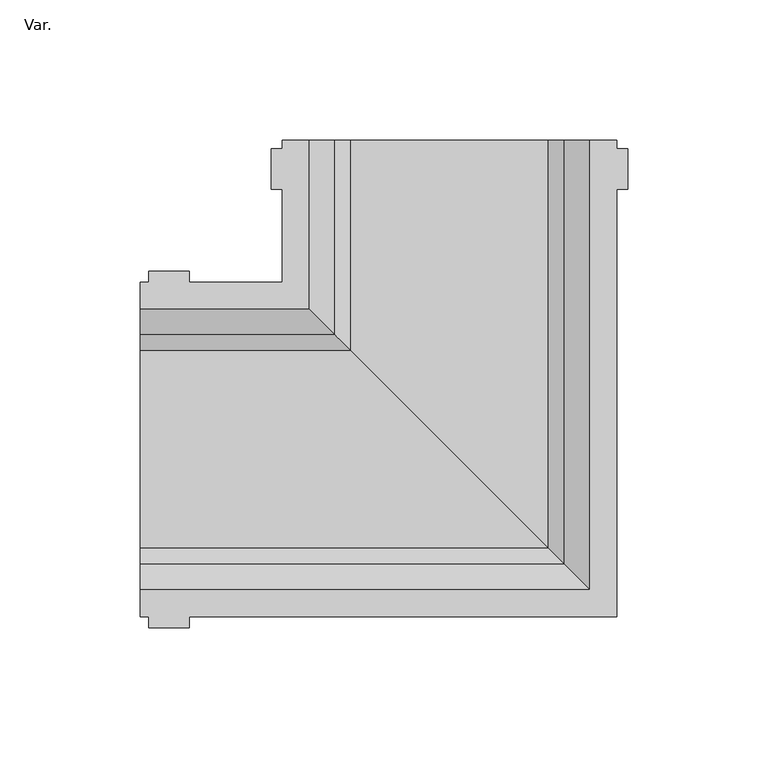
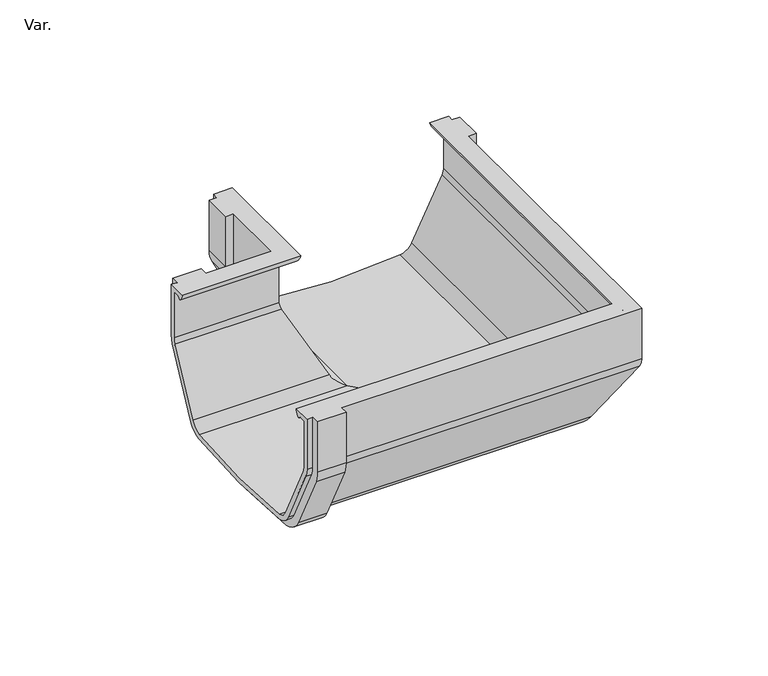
"""IFC4 building model written with IfcOpenShell, lengths in millimetres: pipe fitting geometry, PavcoWavin_UnionesDeTuberia_ZCanal Raingo_Unión Esquina_NoUsarUnion : Var.."""

from ifc_helpers import new_model, si_unit, frame, origin, place, context, project, spatial, polyline, circle_curve, ellipse_curve, source, transform, mapped, element, save
from ifc_brep_helpers import plane_surface, cylinder_surface, revolved_surface, advanced_brep


def var_66918e25(model_context):
    return source(origin(), model_context, "Body", "AdvancedBrep", [
        advanced_brep(
        [(3.0, -59.65, 74.30297), (3.0, -59.65, 47.349975), (3.0, -58.7346069, 43.0345014), (3.0, -43.1317978, 11.7683303), (3.0, -35.5756149, 6.0662115), (3.0, 35.5756149, 6.0662115), (3.0, 43.1317978, 11.7683303), (3.0, 58.7346069, 43.0345014), (3.0, 59.65, 47.349975), (3.0, 59.65, 74.30297), (3.0, 63.65, 74.30297), (3.0, 63.65, 47.349975), (3.0, 62.3505519, 41.3222652), (3.0, 46.7108918, 9.9822491), (3.0, 36.1652462, 2.1078834), (3.0, -36.1652462, 2.1078834), (3.0, -46.7108918, 9.9822491), (3.0, -62.3505519, 41.3222652), (3.0, -63.65, 47.349975), (3.0, -63.65, 74.30297), (0.0, 59.65, 74.30297), (0.0, 50.15, 74.30297), (60.2, 50.15, 74.30297), (60.2, 110.35, 74.30297), (50.7, 110.35, 74.30297), (50.7, 107.35, 74.30297), (46.7, 107.35, 74.30297), (46.7, 92.85, 74.30297), (50.7, 92.85, 74.30297), (50.7, 59.65, 74.30297), (17.5, 59.65, 74.30297), (17.5, 63.65, 74.30297), (17.5, 63.65, 47.349975), (17.5, 62.3505519, 41.3222652), (17.5, 46.7108918, 9.9822491), (17.5, 36.1652462, 2.1078834), (17.5, -36.1652462, 2.1078834), (17.5, -46.7108918, 9.9822491), (17.5, -62.3505519, 41.3222652), (17.5, -63.65, 47.349975), (17.5, -63.65, 74.30297), (17.5, -59.65, 74.30297), (170.0, -59.65, 74.30297), (170.0, 92.85, 74.30297), (174.0, 92.85, 74.30297), (174.0, 107.35, 74.30297), (170.0, 107.35, 74.30297), (170.0, 110.35, 74.30297), (160.5, 110.35, 74.30297), (160.5, -50.15, 74.30297), (0.0, -50.15, 74.30297), (0.0, -59.65, 74.30297), (17.5, 59.65, 47.349975), (17.5, 58.7346069, 43.0345014), (17.5, 43.1317978, 11.7683303), (17.5, 35.5756149, 6.0662115), (17.5, -35.5756149, 6.0662115), (17.5, -43.1317978, 11.7683303), (17.5, -58.7346069, 43.0345014), (17.5, -59.65, 47.349975), (0.0, 59.65, 47.349975), (0.0, 58.7346069, 43.0345014), (0.0, 43.1317978, 11.7683303), (0.0, 35.5756149, 6.0662115), (0.0, -35.5756149, 6.0662115), (0.0, -43.1317978, 11.7683303), (0.0, -58.7346069, 43.0345014), (0.0, -59.65, 47.349975), (0.0, -52.2524004, 70.5325786), (0.0, -53.766394, 71.80297), (0.0, -57.15, 71.80297), (0.0, -57.15, 47.349975), (0.0, -56.4709703, 44.0972929), (0.0, -40.8948641, 12.8846311), (0.0, -35.1949678, 8.5387835), (0.0, 35.1949678, 8.5387835), (0.0, 40.8948641, 12.8846311), (0.0, 56.4709703, 44.0972929), (0.0, 57.15, 47.349975), (0.0, 57.15, 71.80297), (0.0, 53.766394, 71.80297), (0.0, 52.2524004, 70.5325786), (50.7, 59.65, 47.349975), (51.6153931, 58.7346069, 43.0345014), (67.2182022, 43.1317978, 11.7683303), (74.7743851, 35.5756149, 6.0662115), (110.35, 0.0, 4.0), (145.9256149, -35.5756149, 6.0662115), (153.4817978, -43.1317978, 11.7683303), (169.0846069, -58.7346069, 43.0345014), (170.0, -59.65, 47.349975), (162.6024004, -52.2524004, 70.5325786), (164.116394, -53.766394, 71.80297), (164.116394, 110.35, 71.80297), (167.5, 110.35, 71.80297), (167.5, -57.15, 71.80297), (167.5, -57.15, 47.349975), (166.8209703, -56.4709703, 44.0972929), (151.2448641, -40.8948641, 12.8846311), (145.5449678, -35.1949678, 8.5387835), (110.35, 0.0, 6.5), (75.1550322, 35.1949678, 8.5387835), (69.4551359, 40.8948641, 12.8846311), (53.8790297, 56.4709703, 44.0972929), (53.2, 57.15, 47.349975), (53.2, 57.15, 71.80297), (53.2, 110.35, 71.80297), (56.583606, 110.35, 71.80297), (56.583606, 53.766394, 71.80297), (58.0975996, 52.2524004, 70.5325786), (46.7, 92.85, 47.349975), (47.9994481, 92.85, 41.3222652), (63.6391082, 92.85, 9.9822491), (74.1847538, 92.85, 2.1078834), (146.5152462, 92.85, 2.1078834), (157.0608918, 92.85, 9.9822491), (172.7005519, 92.85, 41.3222652), (174.0, 92.85, 47.349975), (170.0, 92.85, 47.349975), (169.0846069, 92.85, 43.0345014), (153.4817978, 92.85, 11.7683303), (145.9256149, 92.85, 6.0662115), (74.7743851, 92.85, 6.0662115), (67.2182022, 92.85, 11.7683303), (51.6153931, 92.85, 43.0345014), (50.7, 92.85, 47.349975), (170.0, 80.85, 47.349975), (169.0846069, 80.85, 43.0345014), (153.4817978, 80.85, 11.7683303), (145.9256149, 80.85, 6.0662115), (74.7743851, 80.85, 6.0662115), (67.2182022, 80.85, 11.7683303), (51.6153931, 80.85, 43.0345014), (50.7, 80.85, 47.349975), (58.0975996, 110.35, 70.5325786), (53.2, 110.35, 47.349975), (53.8790297, 110.35, 44.0972929), (69.4551359, 110.35, 12.8846311), (75.1550322, 110.35, 8.5387835), (145.5449678, 110.35, 8.5387835), (151.2448641, 110.35, 12.8846311), (166.8209703, 110.35, 44.0972929), (167.5, 110.35, 47.349975), (162.6024004, 110.35, 70.5325786), (170.0, 110.35, 47.349975), (169.0846069, 110.35, 43.0345014), (153.4817978, 110.35, 11.7683303), (145.9256149, 110.35, 6.0662115), (74.7743851, 110.35, 6.0662115), (67.2182022, 110.35, 11.7683303), (51.6153931, 110.35, 43.0345014), (50.7, 110.35, 47.349975), (50.7, 107.35, 47.349975), (51.6153931, 107.35, 43.0345014), (67.2182022, 107.35, 11.7683303), (74.7743851, 107.35, 6.0662115), (145.9256149, 107.35, 6.0662115), (153.4817978, 107.35, 11.7683303), (169.0846069, 107.35, 43.0345014), (170.0, 107.35, 47.349975), (174.0, 107.35, 47.349975), (172.7005519, 107.35, 41.3222652), (157.0608918, 107.35, 9.9822491), (146.5152462, 107.35, 2.1078834), (74.1847538, 107.35, 2.1078834), (63.6391082, 107.35, 9.9822491), (47.9994481, 107.35, 41.3222652), (46.7, 107.35, 47.349975)],
        [
            (0, 1),
            (1, 2, circle_curve(frame((3.0, -49.02, 47.349975), z_axis=(1.0, 0.0, 0.0), x_axis=(0.0, -1.0, 0.0)), 10.63)),
            (2, 3),
            (3, 4, circle_curve(frame((3.0, -33.6203555, 16.5148411), z_axis=(1.0, 0.0, 0.0), x_axis=(0.0, -1.0, 0.0)), 10.63)),
            (4, 5, circle_curve(frame((3.0, 0.0, 311.3), z_axis=(1.0, 0.0, 0.0), x_axis=(0.0, 1.0, 0.0)), 307.3)),
            (5, 6, circle_curve(frame((3.0, 33.6203555, 16.5148411), z_axis=(1.0, 0.0, 0.0), x_axis=(0.0, 1.0, 0.0)), 10.63)),
            (6, 7),
            (7, 8, circle_curve(frame((3.0, 49.02, 47.349975), z_axis=(1.0, 0.0, 0.0), x_axis=(0.0, 1.0, 0.0)), 10.63)),
            (8, 9),
            (9, 10),
            (10, 11),
            (11, 12, circle_curve(frame((3.0, 49.02, 47.349975), z_axis=(-1.0, 0.0, 0.0), x_axis=(0.0, 1.0, 0.0)), 14.63)),
            (12, 13),
            (13, 14, circle_curve(frame((3.0, 33.6203555, 16.5148411), z_axis=(-1.0, 0.0, 0.0), x_axis=(0.0, 1.0, 0.0)), 14.63)),
            (14, 15, circle_curve(frame((3.0, 0.0, 311.3), z_axis=(-1.0, 0.0, 0.0), x_axis=(0.0, 1.0, 0.0)), 311.3)),
            (15, 16, circle_curve(frame((3.0, -33.6203555, 16.5148411), z_axis=(-1.0, 0.0, 0.0), x_axis=(0.0, 1.0, 0.0)), 14.63)),
            (16, 17),
            (17, 18, circle_curve(frame((3.0, -49.02, 47.349975), z_axis=(-1.0, 0.0, 0.0), x_axis=(0.0, 1.0, 0.0)), 14.63)),
            (18, 19),
            (19, 0),
            (9, 20),
            (20, 21),
            (21, 22),
            (22, 23),
            (23, 24),
            (24, 25),
            (25, 26),
            (26, 27),
            (27, 28),
            (28, 29),
            (29, 30),
            (30, 31),
            (31, 10),
            (31, 32),
            (32, 11),
            (32, 33, circle_curve(frame((17.5, 49.02, 47.349975), z_axis=(-1.0, 0.0, 0.0), x_axis=(0.0, 1.0, 0.0)), 14.63)),
            (33, 12),
            (33, 34),
            (34, 13),
            (34, 35, circle_curve(frame((17.5, 33.6203555, 16.5148411), z_axis=(-1.0, 0.0, 0.0), x_axis=(0.0, 1.0, 0.0)), 14.63)),
            (35, 14),
            (35, 36, circle_curve(frame((17.5, 0.0, 311.3), z_axis=(-1.0, 0.0, 0.0), x_axis=(0.0, 1.0, 0.0)), 311.3)),
            (36, 15),
            (36, 37, circle_curve(frame((17.5, -33.6203555, 16.5148411), z_axis=(-1.0, 0.0, 0.0), x_axis=(0.0, 1.0, 0.0)), 14.63)),
            (37, 16),
            (37, 38),
            (38, 17),
            (38, 39, circle_curve(frame((17.5, -49.02, 47.349975), z_axis=(-1.0, 0.0, 0.0), x_axis=(0.0, 1.0, 0.0)), 14.63)),
            (39, 18),
            (39, 40),
            (40, 19),
            (40, 41),
            (41, 42),
            (42, 43),
            (43, 44),
            (44, 45),
            (45, 46),
            (46, 47),
            (47, 48),
            (48, 49),
            (49, 50),
            (50, 51),
            (51, 0),
            (30, 52),
            (52, 53, circle_curve(frame((17.5, 49.02, 47.349975), z_axis=(-1.0, 0.0, 0.0), x_axis=(0.0, 1.0, 0.0)), 10.63)),
            (53, 54),
            (54, 55, circle_curve(frame((17.5, 33.6203555, 16.5148411), z_axis=(-1.0, 0.0, 0.0), x_axis=(0.0, 1.0, 0.0)), 10.63)),
            (55, 56, circle_curve(frame((17.5, 0.0, 311.3), z_axis=(-1.0, 0.0, 0.0), x_axis=(0.0, 1.0, 0.0)), 307.3)),
            (56, 57, circle_curve(frame((17.5, -33.6203555, 16.5148411), z_axis=(-1.0, 0.0, 0.0), x_axis=(0.0, -1.0, 0.0)), 10.63)),
            (57, 58),
            (58, 59, circle_curve(frame((17.5, -49.02, 47.349975), z_axis=(-1.0, 0.0, 0.0), x_axis=(0.0, -1.0, 0.0)), 10.63)),
            (59, 41),
            (20, 60),
            (60, 61, circle_curve(frame((0.0, 49.02, 47.349975), z_axis=(-1.0, 0.0, 0.0), x_axis=(0.0, 1.0, 0.0)), 10.63)),
            (61, 62),
            (62, 63, circle_curve(frame((0.0, 33.6203555, 16.5148411), z_axis=(-1.0, 0.0, 0.0), x_axis=(0.0, 1.0, 0.0)), 10.63)),
            (63, 64, circle_curve(frame((0.0, 0.0, 311.3), z_axis=(-1.0, 0.0, 0.0), x_axis=(0.0, 1.0, 0.0)), 307.3)),
            (64, 65, circle_curve(frame((0.0, -33.6203555, 16.5148411), z_axis=(-1.0, 0.0, 0.0), x_axis=(0.0, -1.0, 0.0)), 10.63)),
            (65, 66),
            (66, 67, circle_curve(frame((0.0, -49.02, 47.349975), z_axis=(-1.0, 0.0, 0.0), x_axis=(0.0, -1.0, 0.0)), 10.63)),
            (67, 51),
            (50, 68, circle_curve(frame((0.0, -55.1403012, 74.6142485), z_axis=(-1.0, 0.0, 0.0), x_axis=(0.0, -1.0, 0.0)), 5.0)),
            (68, 69),
            (69, 70),
            (70, 71),
            (71, 72, circle_curve(frame((0.0, -49.02, 47.349975), z_axis=(1.0, 0.0, 0.0), x_axis=(0.0, -1.0, 0.0)), 8.13)),
            (72, 73),
            (73, 74, circle_curve(frame((0.0, -33.6203555, 16.5148411), z_axis=(1.0, 0.0, 0.0), x_axis=(0.0, -1.0, 0.0)), 8.13)),
            (74, 75, circle_curve(frame((0.0, 0.0, 311.3), z_axis=(1.0, 0.0, 0.0), x_axis=(0.0, 1.0, 0.0)), 304.8)),
            (75, 76, circle_curve(frame((0.0, 33.6203555, 16.5148411), z_axis=(1.0, 0.0, 0.0), x_axis=(0.0, 1.0, 0.0)), 8.13)),
            (76, 77),
            (77, 78, circle_curve(frame((0.0, 49.02, 47.349975), z_axis=(1.0, 0.0, 0.0), x_axis=(0.0, 1.0, 0.0)), 8.13)),
            (78, 79),
            (79, 80),
            (80, 81),
            (81, 21, circle_curve(frame((0.0, 55.1403012, 74.6142485), z_axis=(-1.0, 0.0, 0.0), x_axis=(0.0, 1.0, 0.0)), 5.0)),
            (8, 60),
            (29, 82),
            (82, 52),
            (82, 83, ellipse_curve(frame((61.33, 49.02, 47.349975), z_axis=(-0.7071067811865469, -0.7071067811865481, 0.0), x_axis=(0.7071067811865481, -0.7071067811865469, 0.0)), 15.0330902, 10.63)),
            (83, 53),
            (7, 61),
            (83, 84),
            (84, 54),
            (6, 62),
            (84, 85, ellipse_curve(frame((76.7296445, 33.6203555, 16.5148411), z_axis=(-0.7071067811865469, -0.7071067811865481, 0.0), x_axis=(0.7071067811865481, -0.7071067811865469, 0.0)), 15.0330902, 10.63)),
            (85, 55),
            (5, 63),
            (85, 86, ellipse_curve(frame((110.35, 0.0, 311.3), z_axis=(-0.7071067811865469, -0.7071067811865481, 0.0), x_axis=(0.7071067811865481, -0.7071067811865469, 0.0)), 434.5878277, 307.3)),
            (86, 87, ellipse_curve(frame((110.35, 0.0, 311.3), z_axis=(-0.7071067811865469, -0.7071067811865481, 0.0), x_axis=(0.7071067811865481, -0.7071067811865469, 0.0)), 434.5878277, 307.3)),
            (87, 56),
            (4, 64),
            (87, 88, ellipse_curve(frame((143.9703555, -33.6203555, 16.5148411), z_axis=(-0.7071067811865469, -0.7071067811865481, 0.0), x_axis=(0.7071067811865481, -0.7071067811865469, 0.0)), 15.0330902, 10.63)),
            (88, 57),
            (3, 65),
            (88, 89),
            (89, 58),
            (2, 66),
            (89, 90, ellipse_curve(frame((159.37, -49.02, 47.349975), z_axis=(-0.7071067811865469, -0.7071067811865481, 0.0), x_axis=(0.7071067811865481, -0.7071067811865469, 0.0)), 15.0330902, 10.63)),
            (90, 59),
            (1, 67),
            (90, 42),
            (49, 91, ellipse_curve(frame((165.4903012, -55.1403012, 74.6142485), z_axis=(-0.7071067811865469, -0.7071067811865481, 0.0), x_axis=(0.7071067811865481, -0.7071067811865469, 0.0)), 7.0710678, 5.0)),
            (91, 68),
            (91, 92),
            (92, 69),
            (92, 93),
            (93, 94),
            (94, 95),
            (95, 70),
            (95, 96),
            (96, 71),
            (96, 97, ellipse_curve(frame((159.37, -49.02, 47.349975), z_axis=(0.7071067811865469, 0.7071067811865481, 0.0), x_axis=(-0.7071067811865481, 0.7071067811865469, 0.0)), 11.4975563, 8.13)),
            (97, 72),
            (97, 98),
            (98, 73),
            (98, 99, ellipse_curve(frame((143.9703555, -33.6203555, 16.5148411), z_axis=(0.7071067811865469, 0.7071067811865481, 0.0), x_axis=(-0.7071067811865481, 0.7071067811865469, 0.0)), 11.4975563, 8.13)),
            (99, 74),
            (99, 100, ellipse_curve(frame((110.35, 0.0, 311.3), z_axis=(0.7071067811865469, 0.7071067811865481, 0.0), x_axis=(-0.7071067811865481, 0.7071067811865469, 0.0)), 431.0522938, 304.8)),
            (100, 101, ellipse_curve(frame((110.35, 0.0, 311.3), z_axis=(0.7071067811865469, 0.7071067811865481, 0.0), x_axis=(-0.7071067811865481, 0.7071067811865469, 0.0)), 431.0522938, 304.8)),
            (101, 75),
            (101, 102, ellipse_curve(frame((76.7296445, 33.6203555, 16.5148411), z_axis=(0.7071067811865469, 0.7071067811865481, 0.0), x_axis=(-0.7071067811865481, 0.7071067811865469, 0.0)), 11.4975563, 8.13)),
            (102, 76),
            (102, 103),
            (103, 77),
            (103, 104, ellipse_curve(frame((61.33, 49.02, 47.349975), z_axis=(0.7071067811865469, 0.7071067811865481, 0.0), x_axis=(-0.7071067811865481, 0.7071067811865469, 0.0)), 11.4975563, 8.13)),
            (104, 78),
            (104, 105),
            (105, 79),
            (105, 106),
            (106, 107),
            (107, 108),
            (108, 80),
            (108, 109),
            (109, 81),
            (109, 22, ellipse_curve(frame((55.2096988, 55.1403012, 74.6142485), z_axis=(-0.7071067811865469, -0.7071067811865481, 0.0), x_axis=(0.7071067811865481, -0.7071067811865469, 0.0)), 7.0710678, 5.0)),
            (27, 110),
            (110, 111, circle_curve(frame((61.33, 92.85, 47.349975), z_axis=(0.0, -1.0, 0.0), x_axis=(-1.0, 0.0, 0.0)), 14.63)),
            (111, 112),
            (112, 113, circle_curve(frame((76.7296445, 92.85, 16.5148411), z_axis=(0.0, -1.0, 0.0), x_axis=(-1.0, 0.0, 0.0)), 14.63)),
            (113, 114, circle_curve(frame((110.35, 92.85, 311.3), z_axis=(0.0, -1.0, 0.0), x_axis=(-1.0, 0.0, 0.0)), 311.3)),
            (114, 115, circle_curve(frame((143.9703555, 92.85, 16.5148411), z_axis=(0.0, -1.0, 0.0), x_axis=(-1.0, 0.0, 0.0)), 14.63)),
            (115, 116),
            (116, 117, circle_curve(frame((159.37, 92.85, 47.349975), z_axis=(0.0, -1.0, 0.0), x_axis=(-1.0, 0.0, 0.0)), 14.63)),
            (117, 44),
            (43, 118),
            (118, 119, circle_curve(frame((159.37, 92.85, 47.349975), z_axis=(0.0, 1.0, 0.0), x_axis=(-1.0, 0.0, 0.0)), 10.63)),
            (119, 120),
            (120, 121, circle_curve(frame((143.9703555, 92.85, 16.5148411), z_axis=(0.0, 1.0, 0.0), x_axis=(-1.0, 0.0, 0.0)), 10.63)),
            (121, 122, circle_curve(frame((110.35, 92.85, 311.3), z_axis=(0.0, 1.0, 0.0), x_axis=(-1.0, 0.0, 0.0)), 307.3)),
            (122, 123, circle_curve(frame((76.7296445, 92.85, 16.5148411), z_axis=(0.0, 1.0, 0.0), x_axis=(-1.0, 0.0, 0.0)), 10.63)),
            (123, 124),
            (124, 125, circle_curve(frame((61.33, 92.85, 47.349975), z_axis=(0.0, 1.0, 0.0), x_axis=(-1.0, 0.0, 0.0)), 10.63)),
            (125, 28),
            (118, 126),
            (126, 127, circle_curve(frame((159.37, 80.85, 47.349975), z_axis=(0.0, 1.0, 0.0), x_axis=(-1.0, 0.0, 0.0)), 10.63)),
            (127, 119),
            (120, 128),
            (128, 129, circle_curve(frame((143.9703555, 80.85, 16.5148411), z_axis=(0.0, 1.0, 0.0), x_axis=(-1.0, 0.0, 0.0)), 10.63)),
            (129, 121),
            (129, 130, circle_curve(frame((110.35, 80.85, 311.3), z_axis=(0.0, 1.0, 0.0), x_axis=(-1.0, 0.0, 0.0)), 307.3)),
            (130, 122),
            (130, 131, circle_curve(frame((76.7296445, 80.85, 16.5148411), z_axis=(0.0, 1.0, 0.0), x_axis=(-1.0, 0.0, 0.0)), 10.63)),
            (131, 123),
            (124, 132),
            (132, 133, circle_curve(frame((61.33, 80.85, 47.349975), z_axis=(0.0, 1.0, 0.0), x_axis=(-1.0, 0.0, 0.0)), 10.63)),
            (133, 125),
            (23, 134, circle_curve(frame((55.2096988, 110.35, 74.6142485), z_axis=(0.0, 1.0, 0.0), x_axis=(-1.0, 0.0, 0.0)), 5.0)),
            (134, 107),
            (106, 135),
            (135, 136, circle_curve(frame((61.33, 110.35, 47.349975), z_axis=(0.0, -1.0, 0.0), x_axis=(-1.0, 0.0, 0.0)), 8.13)),
            (136, 137),
            (137, 138, circle_curve(frame((76.7296445, 110.35, 16.5148411), z_axis=(0.0, -1.0, 0.0), x_axis=(-1.0, 0.0, 0.0)), 8.13)),
            (138, 139, circle_curve(frame((110.35, 110.35, 311.3), z_axis=(0.0, -1.0, 0.0), x_axis=(-1.0, 0.0, 0.0)), 304.8)),
            (139, 140, circle_curve(frame((143.9703555, 110.35, 16.5148411), z_axis=(0.0, -1.0, 0.0), x_axis=(1.0, 0.0, 0.0)), 8.13)),
            (140, 141),
            (141, 142, circle_curve(frame((159.37, 110.35, 47.349975), z_axis=(0.0, -1.0, 0.0), x_axis=(1.0, 0.0, 0.0)), 8.13)),
            (142, 94),
            (93, 143),
            (143, 48, circle_curve(frame((165.4903012, 110.35, 74.6142485), z_axis=(0.0, 1.0, 0.0), x_axis=(1.0, 0.0, 0.0)), 5.0)),
            (47, 144),
            (144, 145, circle_curve(frame((159.37, 110.35, 47.349975), z_axis=(0.0, 1.0, 0.0), x_axis=(1.0, 0.0, 0.0)), 10.63)),
            (145, 146),
            (146, 147, circle_curve(frame((143.9703555, 110.35, 16.5148411), z_axis=(0.0, 1.0, 0.0), x_axis=(1.0, 0.0, 0.0)), 10.63)),
            (147, 148, circle_curve(frame((110.35, 110.35, 311.3), z_axis=(0.0, 1.0, 0.0), x_axis=(-1.0, 0.0, 0.0)), 307.3)),
            (148, 149, circle_curve(frame((76.7296445, 110.35, 16.5148411), z_axis=(0.0, 1.0, 0.0), x_axis=(-1.0, 0.0, 0.0)), 10.63)),
            (149, 150),
            (150, 151, circle_curve(frame((61.33, 110.35, 47.349975), z_axis=(0.0, 1.0, 0.0), x_axis=(-1.0, 0.0, 0.0)), 10.63)),
            (151, 24),
            (133, 82),
            (151, 152),
            (152, 25),
            (132, 83),
            (150, 153),
            (153, 152, circle_curve(frame((61.33, 107.35, 47.349975), z_axis=(0.0, 1.0, 0.0), x_axis=(-1.0, 0.0, 0.0)), 10.63)),
            (131, 84),
            (149, 154),
            (154, 153),
            (130, 85),
            (148, 155),
            (155, 154, circle_curve(frame((76.7296445, 107.35, 16.5148411), z_axis=(0.0, 1.0, 0.0), x_axis=(-1.0, 0.0, 0.0)), 10.63)),
            (129, 87),
            (147, 156),
            (156, 155, circle_curve(frame((110.35, 107.35, 311.3), z_axis=(0.0, 1.0, 0.0), x_axis=(-1.0, 0.0, 0.0)), 307.3)),
            (128, 88),
            (146, 157),
            (157, 156, circle_curve(frame((143.9703555, 107.35, 16.5148411), z_axis=(0.0, 1.0, 0.0), x_axis=(1.0, 0.0, 0.0)), 10.63)),
            (127, 89),
            (145, 158),
            (158, 157),
            (126, 90),
            (144, 159),
            (159, 158, circle_curve(frame((159.37, 107.35, 47.349975), z_axis=(0.0, 1.0, 0.0), x_axis=(1.0, 0.0, 0.0)), 10.63)),
            (46, 159),
            (143, 91),
            (142, 96),
            (141, 97),
            (140, 98),
            (139, 99),
            (138, 101),
            (137, 102),
            (136, 103),
            (135, 104),
            (134, 109),
            (45, 160),
            (160, 161, circle_curve(frame((159.37, 107.35, 47.349975), z_axis=(0.0, 1.0, 0.0), x_axis=(-1.0, 0.0, 0.0)), 14.63)),
            (161, 162),
            (162, 163, circle_curve(frame((143.9703555, 107.35, 16.5148411), z_axis=(0.0, 1.0, 0.0), x_axis=(-1.0, 0.0, 0.0)), 14.63)),
            (163, 164, circle_curve(frame((110.35, 107.35, 311.3), z_axis=(0.0, 1.0, 0.0), x_axis=(-1.0, 0.0, 0.0)), 311.3)),
            (164, 165, circle_curve(frame((76.7296445, 107.35, 16.5148411), z_axis=(0.0, 1.0, 0.0), x_axis=(-1.0, 0.0, 0.0)), 14.63)),
            (165, 166),
            (166, 167, circle_curve(frame((61.33, 107.35, 47.349975), z_axis=(0.0, 1.0, 0.0), x_axis=(-1.0, 0.0, 0.0)), 14.63)),
            (167, 26),
            (167, 110),
            (166, 111),
            (165, 112),
            (164, 113),
            (163, 114),
            (162, 115),
            (161, 116),
            (160, 117),
        ],
        [
            plane_surface(frame((3.0, -59.65, 69.80297), z_axis=(-1.0, 0.0, 0.0), x_axis=(0.0, 0.0, 1.0))),
            plane_surface(frame((29.5, 59.65, 74.30297), z_axis=(0.0, 0.0, 1.0), x_axis=(-1.0, 0.0, 0.0))),
            plane_surface(frame((29.5, 63.65, 74.30297), z_axis=(0.0, 1.0, 0.0), x_axis=(-1.0, 0.0, 0.0))),
            cylinder_surface(frame((3.0, 49.02, 47.349975), z_axis=(1.0, 0.0, 0.0), x_axis=(0.0, 1.0, 0.0)), 14.63),
            plane_surface(frame((29.5, 62.3505519, 41.3222652), z_axis=(0.0, 0.8947735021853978, -0.4465203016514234), x_axis=(-1.0, 0.0, 0.0))),
            cylinder_surface(frame((3.0, 33.6203555, 16.5148411), z_axis=(1.0, 0.0, 0.0), x_axis=(0.0, 1.0, 0.0)), 14.63),
            cylinder_surface(frame((3.0, 0.0, 311.3), z_axis=(1.0, 0.0, 0.0), x_axis=(0.0, 1.0, 0.0)), 311.3),
            cylinder_surface(frame((3.0, -33.6203555, 16.5148411), z_axis=(1.0, 0.0, 0.0), x_axis=(0.0, 1.0, 0.0)), 14.63),
            plane_surface(frame((29.5, -46.7108918, 9.9822491), z_axis=(0.0, -0.8947735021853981, -0.4465203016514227), x_axis=(-1.0, 0.0, 0.0))),
            cylinder_surface(frame((3.0, -49.02, 47.349975), z_axis=(1.0, 0.0, 0.0), x_axis=(0.0, 1.0, 0.0)), 14.63),
            plane_surface(frame((29.5, -63.65, 47.349975), z_axis=(0.0, -1.0, 0.0), x_axis=(-1.0, 0.0, 0.0))),
            plane_surface(frame((29.5, -63.65, 74.30297), z_axis=(0.0, 0.0, 1.0), x_axis=(-1.0, 0.0, 0.0))),
            plane_surface(frame((17.5, -59.65, 69.80297), z_axis=(1.0, 0.0, 0.0), x_axis=(0.0, 0.0, 1.0))),
            plane_surface(frame((0.0, 59.65, 74.30297), z_axis=(-1.0, 0.0, 0.0), x_axis=(0.0, -1.0, 0.0))),
            plane_surface(frame((170.0, 59.65, 74.30297), z_axis=(0.0, 1.0, 0.0), x_axis=(-1.0, 0.0, 0.0))),
            cylinder_surface(frame((0.0, 49.02, 47.349975), z_axis=(1.0, 0.0, 0.0), x_axis=(0.0, 1.0, 0.0)), 10.63),
            plane_surface(frame((170.0, 58.7346069, 43.0345014), z_axis=(0.0, 0.8947735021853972, -0.44652030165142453), x_axis=(-1.0, 0.0, 0.0))),
            cylinder_surface(frame((0.0, 33.6203555, 16.5148411), z_axis=(1.0, 0.0, 0.0), x_axis=(0.0, 1.0, 0.0)), 10.63),
            cylinder_surface(frame((0.0, 0.0, 311.3), z_axis=(1.0, 0.0, 0.0), x_axis=(0.0, 1.0, 0.0)), 307.3),
            cylinder_surface(frame((0.0, -33.6203555, 16.5148411), z_axis=(1.0, 0.0, 0.0), x_axis=(0.0, -1.0, 0.0)), 10.63),
            plane_surface(frame((170.0, -43.1317978, 11.7683303), z_axis=(0.0, -0.8947735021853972, -0.4465203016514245), x_axis=(-1.0, 0.0, 0.0))),
            cylinder_surface(frame((0.0, -49.02, 47.349975), z_axis=(1.0, 0.0, 0.0), x_axis=(0.0, -1.0, 0.0)), 10.63),
            plane_surface(frame((170.0, -59.65, 47.349975), z_axis=(0.0, -1.0, 0.0), x_axis=(-1.0, 0.0, 0.0))),
            cylinder_surface(frame((0.0, -55.1403012, 74.6142485), z_axis=(1.0, 0.0, 0.0), x_axis=(0.0, -1.0, 0.0)), 5.0),
            plane_surface(frame((170.0, -52.2524004, 70.5325786), z_axis=(0.0, -0.642787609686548, -0.7660444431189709), x_axis=(-1.0, 0.0, 0.0))),
            plane_surface(frame((170.0, -53.766394, 71.80297), z_axis=(0.0, 0.0, -1.0), x_axis=(-1.0, 0.0, 0.0))),
            plane_surface(frame((170.0, -57.15, 71.80297), z_axis=(0.0, 1.0, 0.0), x_axis=(-1.0, 0.0, 0.0))),
            revolved_surface(polyline([(0.0, -57.150000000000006, 47.349975), (167.50000002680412, -57.150000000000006, 47.349975)]), (0.0, -49.02, 47.349975), (-1.0, 0.0, 0.0)),
            plane_surface(frame((170.0, -56.4709703, 44.0972929), z_axis=(0.0, 0.8947735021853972, 0.44652030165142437), x_axis=(-1.0, 0.0, 0.0))),
            revolved_surface(polyline([(0.0, -41.750355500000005, 16.5148411), (152.10035552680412, -41.750355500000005, 16.5148411)]), (0.0, -33.6203555, 16.5148411), (-1.0, 0.0, 0.0)),
            revolved_surface(polyline([(-194.44999999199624, 304.8, 311.3), (415.1499999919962, 304.8, 311.3)]), (0.0, 0.0, 311.3), (-1.0, 0.0, 0.0)),
            revolved_surface(polyline([(0.0, 41.750355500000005, 16.5148411), (84.85964452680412, 41.750355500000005, 16.5148411)]), (0.0, 33.6203555, 16.5148411), (-1.0, 0.0, 0.0)),
            plane_surface(frame((170.0, 40.8948641, 12.8846311), z_axis=(0.0, -0.8947735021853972, 0.44652030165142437), x_axis=(-1.0, 0.0, 0.0))),
            revolved_surface(polyline([(0.0, 57.150000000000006, 47.349975), (69.46000002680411, 57.150000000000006, 47.349975)]), (0.0, 49.02, 47.349975), (-1.0, 0.0, 0.0)),
            plane_surface(frame((170.0, 57.15, 47.349975), z_axis=(0.0, -1.0, 0.0), x_axis=(-1.0, 0.0, 0.0))),
            plane_surface(frame((170.0, 57.15, 71.80297), z_axis=(0.0, 0.0, -1.0), x_axis=(-1.0, 0.0, 0.0))),
            plane_surface(frame((170.0, 53.766394, 71.80297), z_axis=(0.0, 0.6427876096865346, -0.7660444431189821), x_axis=(-1.0, 0.0, 0.0))),
            cylinder_surface(frame((0.0, 55.1403012, 74.6142485), z_axis=(1.0, 0.0, 0.0), x_axis=(0.0, 1.0, 0.0)), 5.0),
            plane_surface(frame((174.0, 92.85, 74.30297), z_axis=(0.0, -1.0, 0.0), x_axis=(-1.0, 0.0, 0.0))),
            cylinder_surface(frame((159.37, 92.85, 47.349975), z_axis=(0.0, 1.0, 0.0), x_axis=(-1.0, 0.0, 0.0)), 10.63),
            cylinder_surface(frame((143.9703555, 92.85, 16.5148411), z_axis=(0.0, 1.0, 0.0), x_axis=(-1.0, 0.0, 0.0)), 10.63),
            cylinder_surface(frame((110.35, 92.85, 311.3), z_axis=(0.0, 1.0, 0.0), x_axis=(-1.0, 0.0, 0.0)), 307.3),
            cylinder_surface(frame((76.7296445, 92.85, 16.5148411), z_axis=(0.0, 1.0, 0.0), x_axis=(-1.0, 0.0, 0.0)), 10.63),
            cylinder_surface(frame((61.33, 92.85, 47.349975), z_axis=(0.0, 1.0, 0.0), x_axis=(-1.0, 0.0, 0.0)), 10.63),
            plane_surface(frame((50.2096988, 110.35, 74.6142485), z_axis=(0.0, 1.0, 0.0), x_axis=(0.0, 0.0, -1.0))),
            plane_surface(frame((50.7, -59.65, 47.349975), z_axis=(-1.0, 0.0, 0.0), x_axis=(0.0, 1.0, 0.0))),
            cylinder_surface(frame((61.33, 110.35, 47.349975), z_axis=(0.0, -1.0, 0.0), x_axis=(-1.0, 0.0, 0.0)), 10.63),
            plane_surface(frame((67.2182022, -59.65, 11.7683303), z_axis=(-0.8947735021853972, 0.0, -0.4465203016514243), x_axis=(0.0, 1.0, 0.0))),
            cylinder_surface(frame((76.7296445, 110.35, 16.5148411), z_axis=(0.0, -1.0, 0.0), x_axis=(-1.0, 0.0, 0.0)), 10.63),
            cylinder_surface(frame((110.35, 110.35, 311.3), z_axis=(0.0, -1.0, 0.0), x_axis=(-1.0, 0.0, 0.0)), 307.3),
            cylinder_surface(frame((143.9703555, 110.35, 16.5148411), z_axis=(0.0, -1.0, 0.0), x_axis=(1.0, 0.0, 0.0)), 10.63),
            plane_surface(frame((169.0846069, -59.65, 43.0345014), z_axis=(0.8947735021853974, 0.0, -0.446520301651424), x_axis=(0.0, 1.0, 0.0))),
            cylinder_surface(frame((159.37, 110.35, 47.349975), z_axis=(0.0, -1.0, 0.0), x_axis=(1.0, 0.0, 0.0)), 10.63),
            plane_surface(frame((170.0, -59.65, 74.30297), z_axis=(1.0, 0.0, 0.0), x_axis=(0.0, 1.0, 0.0))),
            cylinder_surface(frame((165.4903012, 110.35, 74.6142485), z_axis=(0.0, -1.0, 0.0), x_axis=(1.0, 0.0, 0.0)), 5.0),
            plane_surface(frame((164.116394, -59.65, 71.80297), z_axis=(0.6427876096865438, 0.0, -0.7660444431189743), x_axis=(0.0, 1.0, 0.0))),
            plane_surface(frame((167.5, -59.65, 47.349975), z_axis=(-1.0, 0.0, 0.0), x_axis=(0.0, 1.0, 0.0))),
            revolved_surface(polyline([(167.5, 110.35, 47.349975), (167.5, -57.15000002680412, 47.349975)]), (159.37, 110.35, 47.349975), (0.0, 1.0, 0.0)),
            plane_surface(frame((151.2448641, -59.65, 12.8846311), z_axis=(-0.8947735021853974, 0.0, 0.44652030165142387), x_axis=(0.0, 1.0, 0.0))),
            revolved_surface(polyline([(152.1003555, 110.35, 16.5148411), (152.1003555, -41.7503555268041, 16.5148411)]), (143.9703555, 110.35, 16.5148411), (0.0, 1.0, 0.0)),
            revolved_surface(polyline([(-194.45000000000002, 304.7999999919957, 311.3), (-194.45000000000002, -304.7999999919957, 311.3)]), (110.35, 110.35, 311.3), (0.0, 1.0, 0.0)),
            revolved_surface(polyline([(68.59964450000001, 110.35, 16.5148411), (68.59964450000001, 25.490355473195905, 16.5148411)]), (76.7296445, 110.35, 16.5148411), (0.0, 1.0, 0.0)),
            plane_surface(frame((53.8790297, -59.65, 44.0972929), z_axis=(0.8947735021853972, 0.0, 0.44652030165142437), x_axis=(0.0, 1.0, 0.0))),
            revolved_surface(polyline([(53.199999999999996, 110.35, 47.349975), (53.199999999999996, 40.8899999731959, 47.349975)]), (61.33, 110.35, 47.349975), (0.0, 1.0, 0.0)),
            plane_surface(frame((53.2, -59.65, 71.80297), z_axis=(1.0, 0.0, 0.0), x_axis=(0.0, 1.0, 0.0))),
            plane_surface(frame((58.0975996, -59.65, 70.5325786), z_axis=(-0.6427876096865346, 0.0, -0.7660444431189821), x_axis=(0.0, 1.0, 0.0))),
            cylinder_surface(frame((55.2096988, 110.35, 74.6142485), z_axis=(0.0, -1.0, 0.0), x_axis=(-1.0, 0.0, 0.0)), 5.0),
            plane_surface(frame((174.0, 107.35, 74.30297), z_axis=(0.0, 1.0, 0.0), x_axis=(-1.0, 0.0, 0.0))),
            plane_surface(frame((46.7, 80.85, 47.349975), z_axis=(-1.0, 0.0, 0.0), x_axis=(0.0, 1.0, 0.0))),
            cylinder_surface(frame((61.33, 107.35, 47.349975), z_axis=(0.0, -1.0, 0.0), x_axis=(-1.0, 0.0, 0.0)), 14.63),
            plane_surface(frame((63.6391082, 80.85, 9.9822491), z_axis=(-0.8947735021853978, 0.0, -0.4465203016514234), x_axis=(0.0, 1.0, 0.0))),
            cylinder_surface(frame((76.7296445, 107.35, 16.5148411), z_axis=(0.0, -1.0, 0.0), x_axis=(-1.0, 0.0, 0.0)), 14.63),
            cylinder_surface(frame((110.35, 107.35, 311.3), z_axis=(0.0, -1.0, 0.0), x_axis=(-1.0, 0.0, 0.0)), 311.3),
            cylinder_surface(frame((143.9703555, 107.35, 16.5148411), z_axis=(0.0, -1.0, 0.0), x_axis=(-1.0, 0.0, 0.0)), 14.63),
            plane_surface(frame((172.7005519, 80.85, 41.3222652), z_axis=(0.894773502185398, 0.0, -0.446520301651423), x_axis=(0.0, 1.0, 0.0))),
            cylinder_surface(frame((159.37, 107.35, 47.349975), z_axis=(0.0, -1.0, 0.0), x_axis=(-1.0, 0.0, 0.0)), 14.63),
            plane_surface(frame((174.0, 80.85, 74.30297), z_axis=(1.0, 0.0, 0.0), x_axis=(0.0, 1.0, 0.0))),
        ],
        [
            (0, [[1, 2, 3, 4, 5, 6, 7, 8, 9, 10, 11, 12, 13, 14, 15, 16, 17, 18, 19, 20]]),
            (1, [[21, 22, 23, 24, 25, 26, 27, 28, 29, 30, 31, 32, 33, -10]]),
            (2, [[-33, 34, 35, -11]]),
            (3, [[-35, 36, 37, -12]]),
            (4, [[-37, 38, 39, -13]]),
            (5, [[-39, 40, 41, -14]]),
            (6, [[-41, 42, 43, -15]]),
            (7, [[-43, 44, 45, -16]]),
            (8, [[-45, 46, 47, -17]]),
            (9, [[-47, 48, 49, -18]]),
            (10, [[-49, 50, 51, -19]]),
            (11, [[-51, 52, 53, 54, 55, 56, 57, 58, 59, 60, 61, 62, 63, -20]]),
            (12, [[64, 65, 66, 67, 68, 69, 70, 71, 72, -52, -50, -48, -46, -44, -42, -40, -38, -36, -34, -32]]),
            (13, [[-22, 73, 74, 75, 76, 77, 78, 79, 80, 81, -62, 82, 83, 84, 85, 86, 87, 88, 89, 90, 91, 92, 93, 94, 95, 96]]),
            (14, [[-21, -9, 97, -73]]),
            (14, [[-64, -31, 98, 99]]),
            (15, [[-65, -99, 100, 101]]),
            (15, [[-97, -8, 102, -74]]),
            (16, [[-66, -101, 103, 104]]),
            (16, [[-102, -7, 105, -75]]),
            (17, [[-67, -104, 106, 107]]),
            (17, [[-105, -6, 108, -76]]),
            (18, [[-68, -107, 109, 110, 111]]),
            (18, [[-108, -5, 112, -77]]),
            (19, [[-69, -111, 113, 114]]),
            (19, [[-112, -4, 115, -78]]),
            (20, [[-70, -114, 116, 117]]),
            (20, [[-115, -3, 118, -79]]),
            (21, [[-71, -117, 119, 120]]),
            (21, [[-118, -2, 121, -80]]),
            (22, [[-121, -1, -63, -81]]),
            (22, [[122, -53, -72, -120]]),
            (23, [[-61, 123, 124, -82]]),
            (24, [[-124, 125, 126, -83]]),
            (25, [[-126, 127, 128, 129, 130, -84]]),
            (26, [[-130, 131, 132, -85]]),
            (27, [[-132, 133, 134, -86]]),
            (28, [[-134, 135, 136, -87]]),
            (29, [[-136, 137, 138, -88]]),
            (30, [[-138, 139, 140, 141, -89]]),
            (31, [[-141, 142, 143, -90]]),
            (32, [[-143, 144, 145, -91]]),
            (33, [[-145, 146, 147, -92]]),
            (34, [[-147, 148, 149, -93]]),
            (35, [[-149, 150, 151, 152, 153, -94]]),
            (36, [[-153, 154, 155, -95]]),
            (37, [[-155, 156, -23, -96]]),
            (38, [[-29, 157, 158, 159, 160, 161, 162, 163, 164, 165, -55, 166, 167, 168, 169, 170, 171, 172, 173, 174]]),
            (39, [[175, 176, 177, -167]]),
            (40, [[178, 179, 180, -169]]),
            (41, [[-180, 181, 182, -170]]),
            (42, [[-182, 183, 184, -171]]),
            (43, [[185, 186, 187, -173]]),
            (44, [[188, 189, -151, 190, 191, 192, 193, 194, 195, 196, 197, 198, -128, 199, 200, -59, 201, 202, 203, 204, 205, 206, 207, 208, 209, -25]]),
            (45, [[-30, -174, -187, 210, -98]]),
            (45, [[211, 212, -26, -209]]),
            (46, [[-210, -186, 213, -100]]),
            (46, [[214, 215, -211, -208]]),
            (47, [[-213, -185, -172, -184, 216, -103]]),
            (47, [[217, 218, -214, -207]]),
            (48, [[-216, -183, 219, -106]]),
            (48, [[220, 221, -217, -206]]),
            (49, [[-219, -181, 222, -110, -109]]),
            (49, [[223, 224, -220, -205]]),
            (50, [[-222, -179, 225, -113]]),
            (50, [[226, 227, -223, -204]]),
            (51, [[-225, -178, -168, -177, 228, -116]]),
            (51, [[229, 230, -226, -203]]),
            (52, [[-228, -176, 231, -119]]),
            (52, [[232, 233, -229, -202]]),
            (53, [[-58, 234, -232, -201]]),
            (53, [[-231, -175, -166, -54, -122]]),
            (54, [[235, -123, -60, -200]]),
            (55, [[-127, -125, -235, -199]]),
            (56, [[236, -131, -129, -198]]),
            (57, [[237, -133, -236, -197]]),
            (58, [[238, -135, -237, -196]]),
            (59, [[239, -137, -238, -195]]),
            (60, [[240, -140, -139, -239, -194]]),
            (61, [[241, -142, -240, -193]]),
            (62, [[242, -144, -241, -192]]),
            (63, [[243, -146, -242, -191]]),
            (64, [[-150, -148, -243, -190]]),
            (65, [[244, -154, -152, -189]]),
            (66, [[-24, -156, -244, -188]]),
            (67, [[-212, -215, -218, -221, -224, -227, -230, -233, -234, -57, 245, 246, 247, 248, 249, 250, 251, 252, 253, -27]]),
            (68, [[254, -157, -28, -253]]),
            (69, [[255, -158, -254, -252]]),
            (70, [[256, -159, -255, -251]]),
            (71, [[257, -160, -256, -250]]),
            (72, [[258, -161, -257, -249]]),
            (73, [[259, -162, -258, -248]]),
            (74, [[260, -163, -259, -247]]),
            (75, [[261, -164, -260, -246]]),
            (76, [[-56, -165, -261, -245]]),
        ],
    ),
    ])


if __name__ == "__main__":
    model = new_model("IFC4")
    model_context = context("Model", 3, world=origin())
    ifc_project = project(units=[si_unit("LENGTHUNIT", "METRE", prefix="MILLI")], contexts=[model_context])
    site = spatial("IfcSite", under=ifc_project)
    building = spatial("IfcBuilding", under=site)
    placement = place(None, origin())
    var_shape = var_66918e25(model_context)
    element("IfcPipeFitting", 1, ObjectType="PavcoWavin_UnionesDeTuberia_ZCanal Raingo_Unión Esquina_NoUsarUnion : Var.", at=placement, inside=building, context=model_context, shape_type="MappedRepresentation", body=[
        mapped(var_shape, transform((0.0, 0.0, 0.0), x_axis=(1.0, 0.0, 0.0), y_axis=(0.0, 1.0, 0.0), z_axis=(0.0, 0.0, 1.0))),
    ])
    save(model, "model.ifc")
